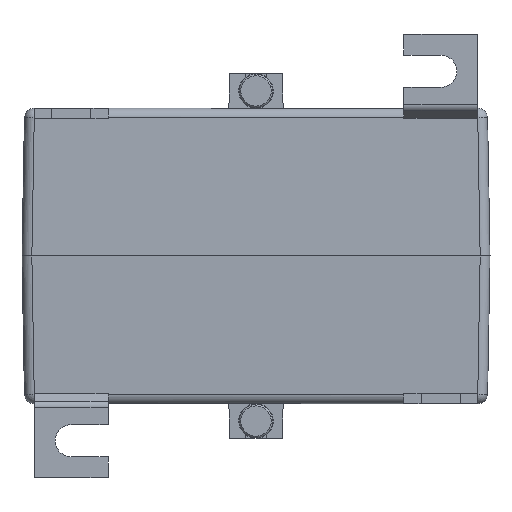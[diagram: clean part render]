
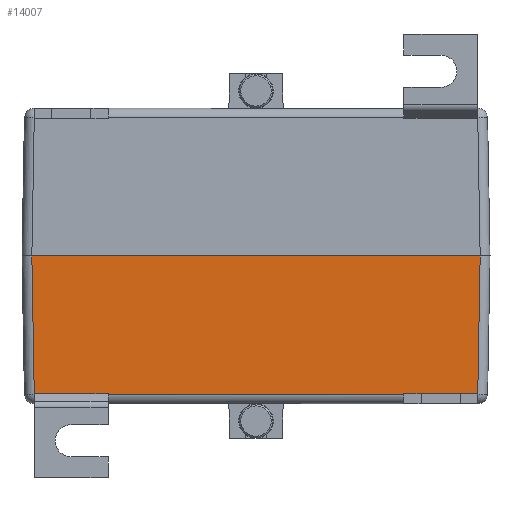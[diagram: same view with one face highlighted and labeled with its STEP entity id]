
A CAD part, front view. The second image highlights one B-rep face of the part: STEP entity #14007.
In plain terms, the highlighted planar face has unit normal (0, -1, -0.018) as drawn and (0, -1, 0.017) by its records, which use the part's own axes.
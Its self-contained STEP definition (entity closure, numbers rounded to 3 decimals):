
#173 = EDGE_CURVE ( 'NONE', #592, #536, #3925, .T. ) ;
#536 = VERTEX_POINT ( 'NONE', #4803 ) ;
#578 = VERTEX_POINT ( 'NONE', #4941 ) ;
#583 = EDGE_CURVE ( 'NONE', #586, #578, #5002, .T. ) ;
#586 = VERTEX_POINT ( 'NONE', #4999 ) ;
#592 = VERTEX_POINT ( 'NONE', #5000 ) ;
#1510 = ORIENTED_EDGE ( 'NONE', *, *, #583, .T. ) ;
#1841 = ORIENTED_EDGE ( 'NONE', *, *, #31116, .T. ) ;
#3917 = DIRECTION ( 'NONE',  ( -1., 0., 0. ) ) ;
#3923 = VECTOR ( 'NONE', #3917, 1000. ) ;
#3924 = CARTESIAN_POINT ( 'NONE',  ( -47.5, -49.511, 28.035 ) ) ;
#3925 = LINE ( 'NONE', #3924, #3923 ) ;
#4803 = CARTESIAN_POINT ( 'NONE',  ( -30.017, -49.511, 28.035 ) ) ;
#4941 = CARTESIAN_POINT ( 'NONE',  ( 44.983, -49.511, 28.035 ) ) ;
#4996 = DIRECTION ( 'NONE',  ( -1., 0., 0. ) ) ;
#4997 = VECTOR ( 'NONE', #4996, 1000. ) ;
#4998 = CARTESIAN_POINT ( 'NONE',  ( -47.5, -49.511, 28.035 ) ) ;
#4999 = CARTESIAN_POINT ( 'NONE',  ( 45.011, -49.511, 28.035 ) ) ;
#5000 = CARTESIAN_POINT ( 'NONE',  ( 30.017, -49.511, 28.035 ) ) ;
#5002 = LINE ( 'NONE', #4998, #4997 ) ;
#10678 = VERTEX_POINT ( 'NONE', #17931 ) ;
#13976 = EDGE_CURVE ( 'NONE', #13983, #10678, #18009, .T. ) ;
#13983 = VERTEX_POINT ( 'NONE', #16742 ) ;
#14007 = ADVANCED_FACE ( 'NONE', ( #16990 ), #16989, .T. ) ;
#14099 = EDGE_LOOP ( 'NONE', ( #1510, #1841, #31154, #31156, #31051, #31050, #31115, #31092, #31158, #31121, #31105, #31089 ) ) ;
#16742 = CARTESIAN_POINT ( 'NONE',  ( -45.5, -50., 0. ) ) ;
#16954 = DIRECTION ( 'NONE',  ( 0., -1., 0.017 ) ) ;
#16955 = CARTESIAN_POINT ( 'NONE',  ( -47.5, -50., 0. ) ) ;
#16984 = DIRECTION ( 'NONE',  ( 0., -0.017, -1. ) ) ;
#16989 = PLANE ( 'NONE',  #16991 ) ;
#16990 = FACE_OUTER_BOUND ( 'NONE', #14099, .T. ) ;
#16991 = AXIS2_PLACEMENT_3D ( 'NONE', #16955, #16954, #16984 ) ;
#17931 = CARTESIAN_POINT ( 'NONE',  ( 45.5, -50., 0. ) ) ;
#18009 = LINE ( 'NONE', #18019, #18018 ) ;
#18017 = DIRECTION ( 'NONE',  ( 1., 0., 0. ) ) ;
#18018 = VECTOR ( 'NONE', #18017, 1000. ) ;
#18019 = CARTESIAN_POINT ( 'NONE',  ( -47.5, -50., 0. ) ) ;
#26255 = CARTESIAN_POINT ( 'NONE',  ( 44.982, -49.511, 27.988 ) ) ;
#26271 = CARTESIAN_POINT ( 'NONE',  ( -44.982, -49.511, 27.988 ) ) ;
#26438 = CARTESIAN_POINT ( 'NONE',  ( -47.5, -49.511, 28.035 ) ) ;
#26439 = LINE ( 'NONE', #26438, #26474 ) ;
#26473 = DIRECTION ( 'NONE',  ( -1., 0., 0. ) ) ;
#26474 = VECTOR ( 'NONE', #26473, 1000. ) ;
#26529 = DIRECTION ( 'NONE',  ( -0.017, -0.017, -1. ) ) ;
#26530 = VECTOR ( 'NONE', #26529, 1000. ) ;
#26533 = CARTESIAN_POINT ( 'NONE',  ( -45.501, -50.001, -0.035 ) ) ;
#26536 = LINE ( 'NONE', #26533, #26530 ) ;
#26545 = CARTESIAN_POINT ( 'NONE',  ( -44.983, -49.511, 28.035 ) ) ;
#26577 = DIRECTION ( 'NONE',  ( -0.017, 0.017, 1. ) ) ;
#26579 = VECTOR ( 'NONE', #26577, 1000. ) ;
#26580 = CARTESIAN_POINT ( 'NONE',  ( 45.472, -49.972, 1.622 ) ) ;
#26581 = LINE ( 'NONE', #26580, #26579 ) ;
#26587 = DIRECTION ( 'NONE',  ( -1., 0., 0. ) ) ;
#26589 = VECTOR ( 'NONE', #26587, 1000. ) ;
#26591 = CARTESIAN_POINT ( 'NONE',  ( -47.5, -49.511, 27.988 ) ) ;
#26593 = LINE ( 'NONE', #26591, #26589 ) ;
#26609 = CARTESIAN_POINT ( 'NONE',  ( -45.011, -49.511, 28.035 ) ) ;
#26612 = DIRECTION ( 'NONE',  ( -0.009, 0.017, 1. ) ) ;
#26613 = VECTOR ( 'NONE', #26612, 1000. ) ;
#26614 = CARTESIAN_POINT ( 'NONE',  ( -44.738, -50., 0.024 ) ) ;
#26618 = LINE ( 'NONE', #26614, #26613 ) ;
#26628 = DIRECTION ( 'NONE',  ( -0.009, -0.017, -1. ) ) ;
#26629 = VECTOR ( 'NONE', #26628, 1000. ) ;
#26630 = CARTESIAN_POINT ( 'NONE',  ( 44.731, -50.014, -0.805 ) ) ;
#26632 = LINE ( 'NONE', #26630, #26629 ) ;
#26643 = DIRECTION ( 'NONE',  ( -0.009, -0.017, -1. ) ) ;
#26644 = VECTOR ( 'NONE', #26643, 1000. ) ;
#26648 = CARTESIAN_POINT ( 'NONE',  ( -30.263, -50.003, -0.15 ) ) ;
#26653 = DIRECTION ( 'NONE',  ( -1., 0., 0. ) ) ;
#26654 = VECTOR ( 'NONE', #26653, 1000. ) ;
#26655 = LINE ( 'NONE', #26648, #26644 ) ;
#26659 = CARTESIAN_POINT ( 'NONE',  ( -47.5, -49.511, 27.988 ) ) ;
#26674 = LINE ( 'NONE', #26659, #26654 ) ;
#26693 = CARTESIAN_POINT ( 'NONE',  ( -30.018, -49.511, 27.988 ) ) ;
#26715 = DIRECTION ( 'NONE',  ( -0.009, 0.017, 1. ) ) ;
#26716 = VECTOR ( 'NONE', #26715, 1000. ) ;
#26717 = CARTESIAN_POINT ( 'NONE',  ( 30.256, -49.988, 0.678 ) ) ;
#26732 = CARTESIAN_POINT ( 'NONE',  ( 30.018, -49.511, 27.988 ) ) ;
#26739 = LINE ( 'NONE', #26717, #26716 ) ;
#31050 = ORIENTED_EDGE ( 'NONE', *, *, #31138, .T. ) ;
#31051 = ORIENTED_EDGE ( 'NONE', *, *, #173, .T. ) ;
#31089 = ORIENTED_EDGE ( 'NONE', *, *, #31095, .T. ) ;
#31090 = EDGE_CURVE ( 'NONE', #31122, #31124, #26439, .T. ) ;
#31092 = ORIENTED_EDGE ( 'NONE', *, *, #31118, .T. ) ;
#31095 = EDGE_CURVE ( 'NONE', #10678, #586, #26581, .T. ) ;
#31101 = EDGE_CURVE ( 'NONE', #31124, #13983, #26536, .T. ) ;
#31105 = ORIENTED_EDGE ( 'NONE', *, *, #13976, .T. ) ;
#31115 = ORIENTED_EDGE ( 'NONE', *, *, #31125, .T. ) ;
#31116 = EDGE_CURVE ( 'NONE', #578, #31145, #26632, .T. ) ;
#31118 = EDGE_CURVE ( 'NONE', #31139, #31122, #26618, .T. ) ;
#31121 = ORIENTED_EDGE ( 'NONE', *, *, #31101, .T. ) ;
#31122 = VERTEX_POINT ( 'NONE', #26545 ) ;
#31124 = VERTEX_POINT ( 'NONE', #26609 ) ;
#31125 = EDGE_CURVE ( 'NONE', #31129, #31139, #26593, .T. ) ;
#31129 = VERTEX_POINT ( 'NONE', #26693 ) ;
#31137 = EDGE_CURVE ( 'NONE', #31145, #31150, #26674, .T. ) ;
#31138 = EDGE_CURVE ( 'NONE', #536, #31129, #26655, .T. ) ;
#31139 = VERTEX_POINT ( 'NONE', #26271 ) ;
#31145 = VERTEX_POINT ( 'NONE', #26255 ) ;
#31150 = VERTEX_POINT ( 'NONE', #26732 ) ;
#31152 = EDGE_CURVE ( 'NONE', #31150, #592, #26739, .T. ) ;
#31154 = ORIENTED_EDGE ( 'NONE', *, *, #31137, .T. ) ;
#31156 = ORIENTED_EDGE ( 'NONE', *, *, #31152, .T. ) ;
#31158 = ORIENTED_EDGE ( 'NONE', *, *, #31090, .T. ) ;
